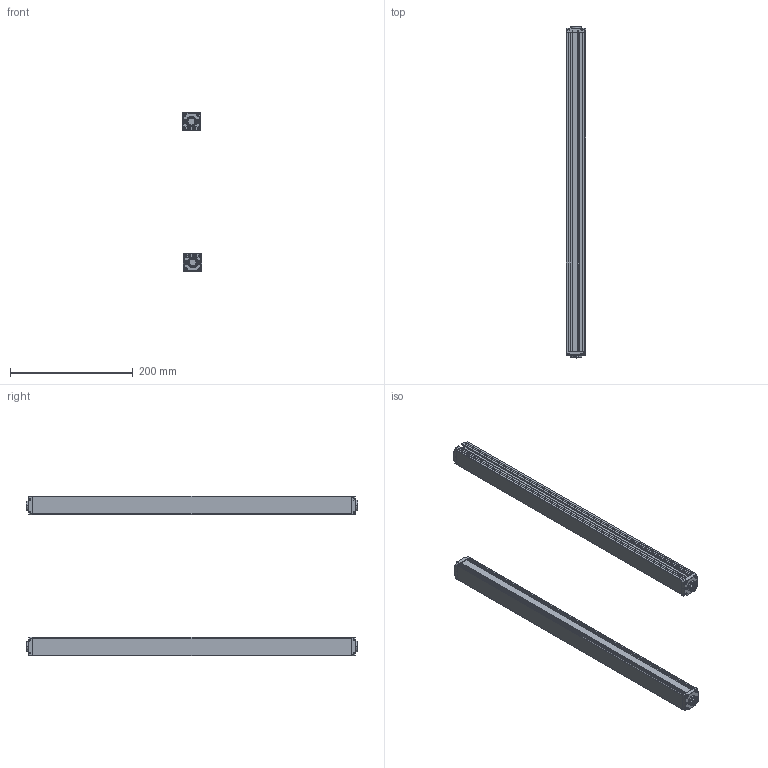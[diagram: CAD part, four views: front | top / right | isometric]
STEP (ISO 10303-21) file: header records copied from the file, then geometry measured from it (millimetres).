
FILE_DESCRIPTION (( 'STEP AP203' ), '1' );
FILE_NAME ('ZDA5010-520.STEP', '2022-08-30T03:51:51', ( 'Windows 蚚誧' ), ( 'Organization' ), 'SwSTEP 2.0', 'SolidWorks 2020', '' );
FILE_SCHEMA (( 'CONFIG_CONTROL_DESIGN' ));
Length unit declared in the file: millimetre
Products named in the file (5): 錨璃8 - 萵掛 (2); 錨璃10; ZDA5010-520; 錨璃1; 錨璃8
Assembly tree (8 placements, depth 2):
  ZDA5010-520
    錨璃1  x2
    錨璃8  x2
    錨璃8 - 萵掛 (2)  x2
    錨璃10  x2
Bounding box: 32.36 x 541.4 x 260.35 mm (x, y, z)
Volume: 335637.6 mm3; surface area: 356602.9 mm2
Topology: 8 solids, 8 shells, 1032 faces, 2690 edges, 1668 vertices
Faces by surface type: plane 464, cylinder 310, cone 120, bspline 58, torus 48, sphere 32
Entity records: 17901 total; most frequent: CARTESIAN_POINT 4731, ORIENTED_EDGE 2666, DIRECTION 2616, EDGE_CURVE 1333, AXIS2_PLACEMENT_3D 894, VERTEX_POINT 834, VECTOR 828, LINE 828
